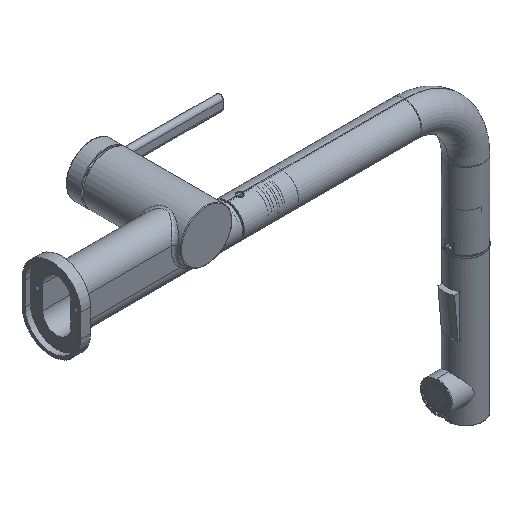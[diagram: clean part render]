
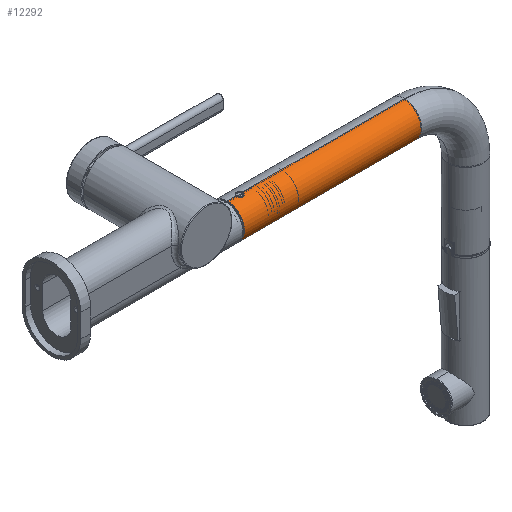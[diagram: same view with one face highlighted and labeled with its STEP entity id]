
A CAD part, isometric view. The second image highlights one B-rep face of the part: STEP entity #12292.
In plain terms, the highlighted cylindrical face has radius 14 mm (diameter 28 mm), a partial arc.
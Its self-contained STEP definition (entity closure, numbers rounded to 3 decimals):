
#11754=CARTESIAN_POINT('',(0.,0.,0.));
#11755=DIRECTION('',(0.,1.,0.));
#11756=DIRECTION('',(0.,0.,-1.));
#11757=AXIS2_PLACEMENT_3D('',#11754,#11755,#11756);
#11777=CARTESIAN_POINT('',(0.,12.7,-14.));
#11779=CARTESIAN_POINT('',(0.,7.7,-14.));
#11788=DIRECTION('',(0.,1.,0.));
#11789=VECTOR('',#11788,145.);
#11790=CARTESIAN_POINT('',(0.,0.,14.));
#11791=LINE('',#11790,#11789);
#11868=CARTESIAN_POINT('',(0.,12.7,-14.));
#11869=CARTESIAN_POINT('',(-0.272,12.7,-14.));
#11870=CARTESIAN_POINT('',(-0.786,12.617,
-13.985));
#11871=CARTESIAN_POINT('',(-1.508,12.246,
-13.924));
#11872=CARTESIAN_POINT('',(-2.061,11.686,
-13.85));
#11873=CARTESIAN_POINT('',(-2.421,10.97,
-13.79));
#11874=CARTESIAN_POINT('',(-2.5,10.466,-13.775));
#11875=CARTESIAN_POINT('',(-2.5,10.2,-13.775));
#11877=DIRECTION('',(0.,1.,0.));
#11878=VECTOR('',#11877,132.3);
#11879=CARTESIAN_POINT('',(0.,12.7,-14.));
#11880=LINE('',#11879,#11878);
#11881=DIRECTION('',(0.,1.,0.));
#11882=VECTOR('',#11881,7.7);
#11883=CARTESIAN_POINT('',(0.,0.,-14.));
#11884=LINE('',#11883,#11882);
#11885=CARTESIAN_POINT('',(-2.5,10.2,-13.775));
#11886=CARTESIAN_POINT('',(-2.5,9.981,-13.775));
#11887=CARTESIAN_POINT('',(-2.444,9.557,
-13.785));
#11888=CARTESIAN_POINT('',(-2.196,8.944,
-13.828));
#11889=CARTESIAN_POINT('',(-1.79,8.414,
-13.888));
#11890=CARTESIAN_POINT('',(-1.274,8.015,
-13.946));
#11891=CARTESIAN_POINT('',(-0.65,7.756,
-13.99));
#11892=CARTESIAN_POINT('',(-0.222,7.7,-14.));
#11893=CARTESIAN_POINT('',(0.,7.7,-14.));
#11895=CARTESIAN_POINT('',(0.,145.,0.));
#11896=DIRECTION('',(0.,1.,0.));
#11897=DIRECTION('',(0.,0.,-1.));
#11898=AXIS2_PLACEMENT_3D('',#11895,#11896,#11897);
#12071=CARTESIAN_POINT('',(0.,0.,14.));
#12072=CARTESIAN_POINT('',(0.,0.,-14.));
#12073=VERTEX_POINT('',#12071);
#12074=VERTEX_POINT('',#12072);
#12075=CARTESIAN_POINT('',(0.,145.,14.));
#12076=CARTESIAN_POINT('',(0.,145.,-14.));
#12077=VERTEX_POINT('',#12075);
#12078=VERTEX_POINT('',#12076);
#12116=VERTEX_POINT('',#11777);
#12117=VERTEX_POINT('',#11779);
#12118=VERTEX_POINT('',#11875);
#12277=CARTESIAN_POINT('',(0.,0.,0.));
#12278=DIRECTION('',(0.,1.,0.));
#12279=DIRECTION('',(0.,0.,1.));
#12280=AXIS2_PLACEMENT_3D('',#12277,#12278,#12279);
#12281=CYLINDRICAL_SURFACE('',#12280,14.);
#12282=ORIENTED_EDGE('',*,*,#12190,.F.);
#12283=ORIENTED_EDGE('',*,*,#12173,.T.);
#12285=ORIENTED_EDGE('',*,*,#12284,.T.);
#12286=ORIENTED_EDGE('',*,*,#12169,.F.);
#12287=ORIENTED_EDGE('',*,*,#12146,.F.);
#12288=ORIENTED_EDGE('',*,*,#12166,.T.);
#12289=ORIENTED_EDGE('',*,*,#12269,.F.);
#12290=EDGE_LOOP('',(#12282,#12283,#12285,#12286,#12287,#12288,#12289));
#12291=FACE_OUTER_BOUND('',#12290,.F.);
#11758=CIRCLE('',#11757,14.);
#11876=B_SPLINE_CURVE_WITH_KNOTS('',3,(#11868,#11869,#11870,#11871,#11872,
#11873,#11874,#11875),.UNSPECIFIED.,.F.,.F.,(4,1,1,1,1,4),(0.,0.2,0.4,
0.6,0.8,1.),.UNSPECIFIED.);
#11894=B_SPLINE_CURVE_WITH_KNOTS('',3,(#11885,#11886,#11887,#11888,#11889,
#11890,#11891,#11892,#11893),.UNSPECIFIED.,.F.,.F.,(4,1,1,1,1,1,4),(0.,
0.167,0.333,0.5,0.667,0.833,
1.),.UNSPECIFIED.);
#11899=CIRCLE('',#11898,14.);
#12146=EDGE_CURVE('',#12074,#12073,#11758,.T.);
#12166=EDGE_CURVE('',#12074,#12117,#11884,.T.);
#12169=EDGE_CURVE('',#12073,#12077,#11791,.T.);
#12173=EDGE_CURVE('',#12116,#12078,#11880,.T.);
#12190=EDGE_CURVE('',#12116,#12118,#11876,.T.);
#12269=EDGE_CURVE('',#12118,#12117,#11894,.T.);
#12284=EDGE_CURVE('',#12078,#12077,#11899,.T.);
#12292=ADVANCED_FACE('',(#12291),#12281,.T.);
